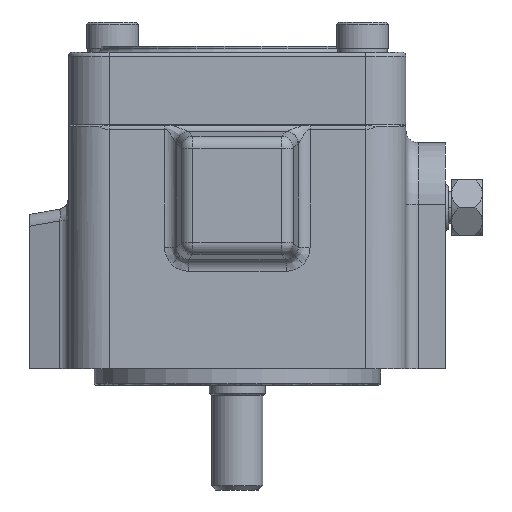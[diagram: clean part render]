
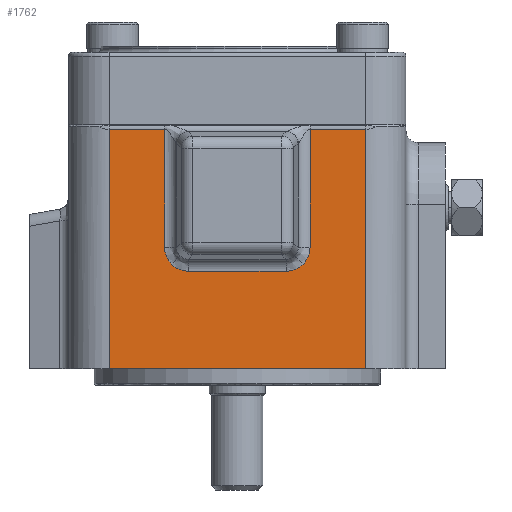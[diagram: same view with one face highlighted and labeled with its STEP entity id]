
A CAD part, front view. The second image highlights one B-rep face of the part: STEP entity #1762.
In plain terms, the highlighted planar face has unit normal (0, -1, 0).
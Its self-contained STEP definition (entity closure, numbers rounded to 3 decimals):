
#310 = DIRECTION ( 'NONE',  ( 1., 0., 0. ) ) ;
#345 = CARTESIAN_POINT ( 'NONE',  ( 15.753, -41.8, 25.408 ) ) ;
#509 = CARTESIAN_POINT ( 'NONE',  ( -18.017, -41.8, 29.36 ) ) ;
#510 = CARTESIAN_POINT ( 'NONE',  ( -16.297, -41.8, 25.953 ) ) ;
#652 = VECTOR ( 'NONE', #15270, 1000. ) ;
#672 = CARTESIAN_POINT ( 'NONE',  ( -12.108, -41.8, 24.233 ) ) ;
#676 = FACE_OUTER_BOUND ( 'NONE', #17578, .T. ) ;
#927 = CARTESIAN_POINT ( 'NONE',  ( 16.842, -41.8, 26.497 ) ) ;
#943 = VERTEX_POINT ( 'NONE', #6937 ) ;
#1055 = DIRECTION ( 'NONE',  ( 0., 0., 1. ) ) ;
#1124 = CARTESIAN_POINT ( 'NONE',  ( 18.017, -41.8, 29.36 ) ) ;
#1242 = B_SPLINE_CURVE_WITH_KNOTS ( 'NONE', 3,
 ( #10422, #927, #8746, #16506, #1124, #11876 ),
 .UNSPECIFIED., .F., .F.,
 ( 4, 2, 4 ),
 ( 0., 0.5, 1. ),
 .UNSPECIFIED. ) ;
#1622 = DIRECTION ( 'NONE',  ( 0., 0., -1. ) ) ;
#1762 = ADVANCED_FACE ( 'NONE', ( #676 ), #7730, .F. ) ;
#1831 = CARTESIAN_POINT ( 'NONE',  ( -16.842, -41.8, 26.497 ) ) ;
#2111 = VERTEX_POINT ( 'NONE', #19252 ) ;
#2859 = LINE ( 'NONE', #6369, #6005 ) ;
#2926 = DIRECTION ( 'NONE',  ( 0., 1., 0. ) ) ;
#2974 = ORIENTED_EDGE ( 'NONE', *, *, #19559, .F. ) ;
#3250 = CARTESIAN_POINT ( 'NONE',  ( 12.108, -41.8, 24.233 ) ) ;
#3363 = B_SPLINE_CURVE_WITH_KNOTS ( 'NONE', 3,
 ( #6564, #509, #3382, #15735, #1831, #18960 ),
 .UNSPECIFIED., .F., .F.,
 ( 4, 2, 4 ),
 ( 0., 0.5, 1. ),
 .UNSPECIFIED. ) ;
#3382 = CARTESIAN_POINT ( 'NONE',  ( -17.865, -41.8, 28.583 ) ) ;
#3555 = VECTOR ( 'NONE', #1622, 1000. ) ;
#3977 = CARTESIAN_POINT ( 'NONE',  ( -12.108, -41.8, 24.233 ) ) ;
#4004 = CARTESIAN_POINT ( 'NONE',  ( -31.8, -41.8, 60.5 ) ) ;
#4313 = VECTOR ( 'NONE', #13883, 1000. ) ;
#4332 = VECTOR ( 'NONE', #19044, 1000. ) ;
#5092 = EDGE_CURVE ( 'NONE', #12248, #7173, #13095, .T. ) ;
#5134 = ORIENTED_EDGE ( 'NONE', *, *, #9587, .F. ) ;
#5545 = VERTEX_POINT ( 'NONE', #14080 ) ;
#5612 = CARTESIAN_POINT ( 'NONE',  ( -13.667, -41.8, 24.385 ) ) ;
#6005 = VECTOR ( 'NONE', #310, 1000. ) ;
#6037 = DIRECTION ( 'NONE',  ( 0., 0., 1. ) ) ;
#6125 = LINE ( 'NONE', #18156, #17904 ) ;
#6163 = CARTESIAN_POINT ( 'NONE',  ( 31.8, -41.8, 0. ) ) ;
#6174 = ORIENTED_EDGE ( 'NONE', *, *, #9599, .F. ) ;
#6369 = CARTESIAN_POINT ( 'NONE',  ( -31.8, -41.8, 24.233 ) ) ;
#6540 = CARTESIAN_POINT ( 'NONE',  ( 12.108, -41.8, 24.233 ) ) ;
#6564 = CARTESIAN_POINT ( 'NONE',  ( -18.017, -41.8, 30.142 ) ) ;
#6569 = AXIS2_PLACEMENT_3D ( 'NONE', #18437, #2926, #6037 ) ;
#6716 = EDGE_CURVE ( 'NONE', #7173, #943, #1242, .T. ) ;
#6937 = CARTESIAN_POINT ( 'NONE',  ( 18.017, -41.8, 30.142 ) ) ;
#7053 = VERTEX_POINT ( 'NONE', #12119 ) ;
#7173 = VERTEX_POINT ( 'NONE', #19917 ) ;
#7236 = LINE ( 'NONE', #4004, #9179 ) ;
#7337 = ORIENTED_EDGE ( 'NONE', *, *, #9395, .F. ) ;
#7346 = ORIENTED_EDGE ( 'NONE', *, *, #18896, .T. ) ;
#7730 = PLANE ( 'NONE',  #6569 ) ;
#8456 = LINE ( 'NONE', #19249, #4332 ) ;
#8746 = CARTESIAN_POINT ( 'NONE',  ( 17.277, -41.8, 27.151 ) ) ;
#8806 = CARTESIAN_POINT ( 'NONE',  ( -18.017, -41.8, 59.382 ) ) ;
#9179 = VECTOR ( 'NONE', #1055, 1000. ) ;
#9319 = VERTEX_POINT ( 'NONE', #672 ) ;
#9395 = EDGE_CURVE ( 'NONE', #13384, #7053, #7236, .T. ) ;
#9587 = EDGE_CURVE ( 'NONE', #9319, #12248, #2859, .T. ) ;
#9599 = EDGE_CURVE ( 'NONE', #7053, #19432, #12504, .T. ) ;
#9652 = CARTESIAN_POINT ( 'NONE',  ( 15.099, -41.8, 24.973 ) ) ;
#9725 = CARTESIAN_POINT ( 'NONE',  ( 13.667, -41.8, 24.385 ) ) ;
#10422 = CARTESIAN_POINT ( 'NONE',  ( 16.297, -41.8, 25.953 ) ) ;
#10447 = DIRECTION ( 'NONE',  ( 0., 0., 1. ) ) ;
#10751 = ORIENTED_EDGE ( 'NONE', *, *, #5092, .F. ) ;
#10814 = CARTESIAN_POINT ( 'NONE',  ( -31.8, -41.8, 59.382 ) ) ;
#11468 = ORIENTED_EDGE ( 'NONE', *, *, #13137, .F. ) ;
#11486 = CARTESIAN_POINT ( 'NONE',  ( 18.017, -41.8, 59.382 ) ) ;
#11496 = ORIENTED_EDGE ( 'NONE', *, *, #6716, .F. ) ;
#11725 = LINE ( 'NONE', #18076, #15063 ) ;
#11732 = CARTESIAN_POINT ( 'NONE',  ( -15.099, -41.8, 24.973 ) ) ;
#11752 = ORIENTED_EDGE ( 'NONE', *, *, #19787, .F. ) ;
#11876 = CARTESIAN_POINT ( 'NONE',  ( 18.017, -41.8, 30.142 ) ) ;
#12119 = CARTESIAN_POINT ( 'NONE',  ( -31.8, -41.8, 59.382 ) ) ;
#12248 = VERTEX_POINT ( 'NONE', #3250 ) ;
#12504 = LINE ( 'NONE', #10814, #4313 ) ;
#12936 = LINE ( 'NONE', #16952, #3555 ) ;
#13033 = ORIENTED_EDGE ( 'NONE', *, *, #16130, .F. ) ;
#13095 = B_SPLINE_CURVE_WITH_KNOTS ( 'NONE', 3,
 ( #6540, #14261, #9725, #9652, #345, #15779 ),
 .UNSPECIFIED., .F., .F.,
 ( 4, 2, 4 ),
 ( 0., 0.5, 1. ),
 .UNSPECIFIED. ) ;
#13137 = EDGE_CURVE ( 'NONE', #19760, #9319, #14270, .T. ) ;
#13384 = VERTEX_POINT ( 'NONE', #13943 ) ;
#13409 = CARTESIAN_POINT ( 'NONE',  ( -31.8, -41.8, 59.382 ) ) ;
#13883 = DIRECTION ( 'NONE',  ( 1., 0., 0. ) ) ;
#13943 = CARTESIAN_POINT ( 'NONE',  ( -31.8, -41.8, 0. ) ) ;
#14080 = CARTESIAN_POINT ( 'NONE',  ( 31.8, -41.8, 59.382 ) ) ;
#14261 = CARTESIAN_POINT ( 'NONE',  ( 12.89, -41.8, 24.233 ) ) ;
#14270 = B_SPLINE_CURVE_WITH_KNOTS ( 'NONE', 3,
 ( #510, #14355, #11732, #5612, #16279, #3977 ),
 .UNSPECIFIED., .F., .F.,
 ( 4, 2, 4 ),
 ( 0., 0.5, 1. ),
 .UNSPECIFIED. ) ;
#14355 = CARTESIAN_POINT ( 'NONE',  ( -15.753, -41.8, 25.408 ) ) ;
#15063 = VECTOR ( 'NONE', #10447, 1000. ) ;
#15270 = DIRECTION ( 'NONE',  ( 1., 0., 0. ) ) ;
#15272 = LINE ( 'NONE', #13409, #652 ) ;
#15355 = EDGE_CURVE ( 'NONE', #19432, #2111, #8456, .T. ) ;
#15408 = CARTESIAN_POINT ( 'NONE',  ( -16.297, -41.8, 25.953 ) ) ;
#15735 = CARTESIAN_POINT ( 'NONE',  ( -17.277, -41.8, 27.151 ) ) ;
#15779 = CARTESIAN_POINT ( 'NONE',  ( 16.297, -41.8, 25.953 ) ) ;
#15953 = VERTEX_POINT ( 'NONE', #11486 ) ;
#16130 = EDGE_CURVE ( 'NONE', #5545, #19676, #12936, .T. ) ;
#16279 = CARTESIAN_POINT ( 'NONE',  ( -12.89, -41.8, 24.233 ) ) ;
#16506 = CARTESIAN_POINT ( 'NONE',  ( 17.865, -41.8, 28.583 ) ) ;
#16835 = EDGE_CURVE ( 'NONE', #943, #15953, #11725, .T. ) ;
#16952 = CARTESIAN_POINT ( 'NONE',  ( 31.8, -41.8, 60.5 ) ) ;
#17077 = ORIENTED_EDGE ( 'NONE', *, *, #15355, .F. ) ;
#17578 = EDGE_LOOP ( 'NONE', ( #7337, #7346, #13033, #2974, #18430, #11496, #10751, #5134, #11468, #11752, #17077, #6174 ) ) ;
#17904 = VECTOR ( 'NONE', #19708, 1000. ) ;
#18076 = CARTESIAN_POINT ( 'NONE',  ( 18.017, -41.8, 60.5 ) ) ;
#18156 = CARTESIAN_POINT ( 'NONE',  ( -31.8, -41.8, 0. ) ) ;
#18430 = ORIENTED_EDGE ( 'NONE', *, *, #16835, .F. ) ;
#18437 = CARTESIAN_POINT ( 'NONE',  ( -31.8, -41.8, 60.5 ) ) ;
#18896 = EDGE_CURVE ( 'NONE', #13384, #19676, #6125, .T. ) ;
#18960 = CARTESIAN_POINT ( 'NONE',  ( -16.297, -41.8, 25.953 ) ) ;
#19044 = DIRECTION ( 'NONE',  ( 0., 0., -1. ) ) ;
#19249 = CARTESIAN_POINT ( 'NONE',  ( -18.017, -41.8, 60.5 ) ) ;
#19252 = CARTESIAN_POINT ( 'NONE',  ( -18.017, -41.8, 30.142 ) ) ;
#19432 = VERTEX_POINT ( 'NONE', #8806 ) ;
#19559 = EDGE_CURVE ( 'NONE', #15953, #5545, #15272, .T. ) ;
#19676 = VERTEX_POINT ( 'NONE', #6163 ) ;
#19708 = DIRECTION ( 'NONE',  ( 1., 0., 0. ) ) ;
#19760 = VERTEX_POINT ( 'NONE', #15408 ) ;
#19787 = EDGE_CURVE ( 'NONE', #2111, #19760, #3363, .T. ) ;
#19917 = CARTESIAN_POINT ( 'NONE',  ( 16.297, -41.8, 25.953 ) ) ;
